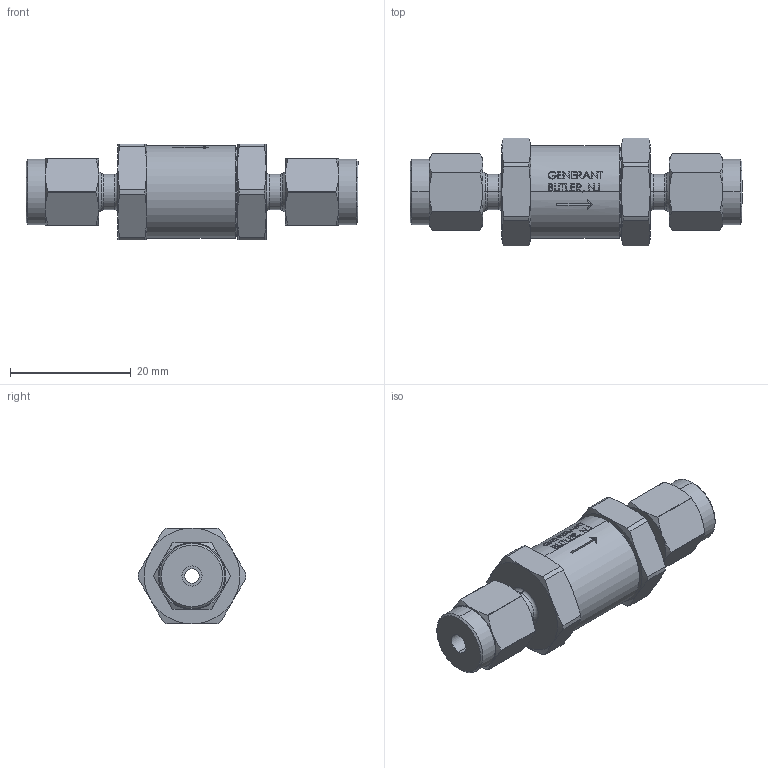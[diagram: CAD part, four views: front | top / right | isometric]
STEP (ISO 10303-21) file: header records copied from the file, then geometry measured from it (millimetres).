
FILE_DESCRIPTION (( 'STEP AP203' ), '1' );
FILE_NAME ('PCV-2T.STEP', '2014-08-21T15:05:57', ( '' ), ( '' ), 'SwSTEP 2.0', 'SolidWorks 2011', '' );
FILE_SCHEMA (( 'CONFIG_CONTROL_DESIGN' ));
Length unit declared in the file: inch
Products named in the file (2): PCV-2T; Part10^PCV-2T_CM
Assembly tree (1 placements, depth 2):
  PCV-2T
    Part10^PCV-2T_CM
Bounding box: 55.07 x 17.91 x 15.88 mm (x, y, z)
Volume: 7188.8 mm3; surface area: 3762.5 mm2
Topology: 1 solids, 1 shells, 365 faces, 948 edges, 618 vertices
Faces by surface type: plane 166, bspline 68, cylinder 65, cone 58, torus 8
Entity records: 14870 total; most frequent: CARTESIAN_POINT 6319, ORIENTED_EDGE 1896, DIRECTION 1499, EDGE_CURVE 948, VERTEX_POINT 618, AXIS2_PLACEMENT_3D 579, EDGE_LOOP 400, FACE_OUTER_BOUND 365
